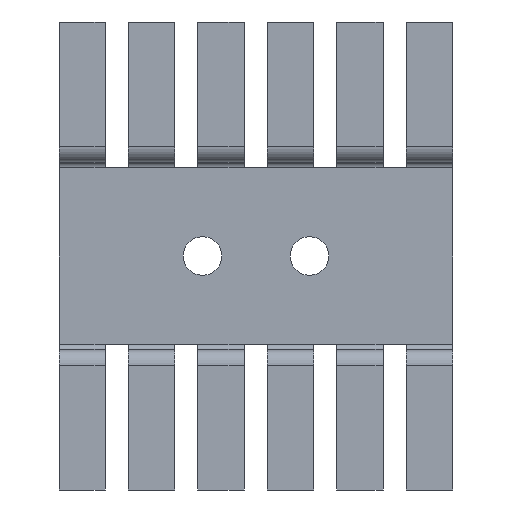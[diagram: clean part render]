
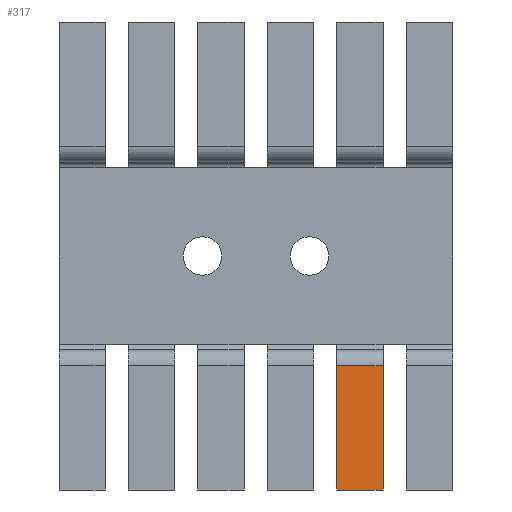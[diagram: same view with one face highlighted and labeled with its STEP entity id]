
A CAD part, left-side view. The second image highlights one B-rep face of the part: STEP entity #317.
In plain terms, the highlighted planar face has unit normal (-1, 0, 0).
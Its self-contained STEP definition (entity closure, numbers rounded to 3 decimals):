
#190 = LINE ( 'NONE', #1798, #1862 ) ;
#199 = PLANE ( 'NONE',  #1497 ) ;
#265 = CARTESIAN_POINT ( 'NONE',  ( -8.5, 6.6, -32.846 ) ) ;
#317 = ADVANCED_FACE ( 'NONE', ( #4300 ), #199, .F. ) ;
#331 = DIRECTION ( 'NONE',  ( 0., 0., 1. ) ) ;
#401 = CARTESIAN_POINT ( 'NONE',  ( -8.5, 11., -31.12 ) ) ;
#565 = ORIENTED_EDGE ( 'NONE', *, *, #3378, .T. ) ;
#633 = ORIENTED_EDGE ( 'NONE', *, *, #2037, .F. ) ;
#654 = ORIENTED_EDGE ( 'NONE', *, *, #3479, .F. ) ;
#655 = VECTOR ( 'NONE', #3028, 1000. ) ;
#801 = ORIENTED_EDGE ( 'NONE', *, *, #2727, .F. ) ;
#963 = VERTEX_POINT ( 'NONE', #4401 ) ;
#1282 = VERTEX_POINT ( 'NONE', #4868 ) ;
#1390 = LINE ( 'NONE', #265, #655 ) ;
#1456 = EDGE_LOOP ( 'NONE', ( #654, #633, #565, #801 ) ) ;
#1497 = AXIS2_PLACEMENT_3D ( 'NONE', #3953, #3848, #4326 ) ;
#1591 = VECTOR ( 'NONE', #331, 1000. ) ;
#1798 = CARTESIAN_POINT ( 'NONE',  ( -8.5, 0., -31.12 ) ) ;
#1862 = VECTOR ( 'NONE', #3436, 1000. ) ;
#2037 = EDGE_CURVE ( 'NONE', #4989, #4445, #5249, .T. ) ;
#2470 = LINE ( 'NONE', #2818, #4433 ) ;
#2727 = EDGE_CURVE ( 'NONE', #1282, #963, #1390, .T. ) ;
#2818 = CARTESIAN_POINT ( 'NONE',  ( -8.5, 0., -19.3 ) ) ;
#2847 = CARTESIAN_POINT ( 'NONE',  ( -8.5, 11., -33.384 ) ) ;
#3028 = DIRECTION ( 'NONE',  ( 0., 0., -1. ) ) ;
#3119 = CARTESIAN_POINT ( 'NONE',  ( -8.5, 11., -19.3 ) ) ;
#3378 = EDGE_CURVE ( 'NONE', #4989, #963, #190, .T. ) ;
#3436 = DIRECTION ( 'NONE',  ( 0., -1., 0. ) ) ;
#3479 = EDGE_CURVE ( 'NONE', #4445, #1282, #2470, .T. ) ;
#3695 = DIRECTION ( 'NONE',  ( 0., -1., 0. ) ) ;
#3848 = DIRECTION ( 'NONE',  ( 1., 0., 0. ) ) ;
#3953 = CARTESIAN_POINT ( 'NONE',  ( -8.5, 0., 0. ) ) ;
#4300 = FACE_OUTER_BOUND ( 'NONE', #1456, .T. ) ;
#4326 = DIRECTION ( 'NONE',  ( 0., 0., -1. ) ) ;
#4401 = CARTESIAN_POINT ( 'NONE',  ( -8.5, 6.6, -31.12 ) ) ;
#4433 = VECTOR ( 'NONE', #3695, 1000. ) ;
#4445 = VERTEX_POINT ( 'NONE', #3119 ) ;
#4868 = CARTESIAN_POINT ( 'NONE',  ( -8.5, 6.6, -19.3 ) ) ;
#4989 = VERTEX_POINT ( 'NONE', #401 ) ;
#5249 = LINE ( 'NONE', #2847, #1591 ) ;
